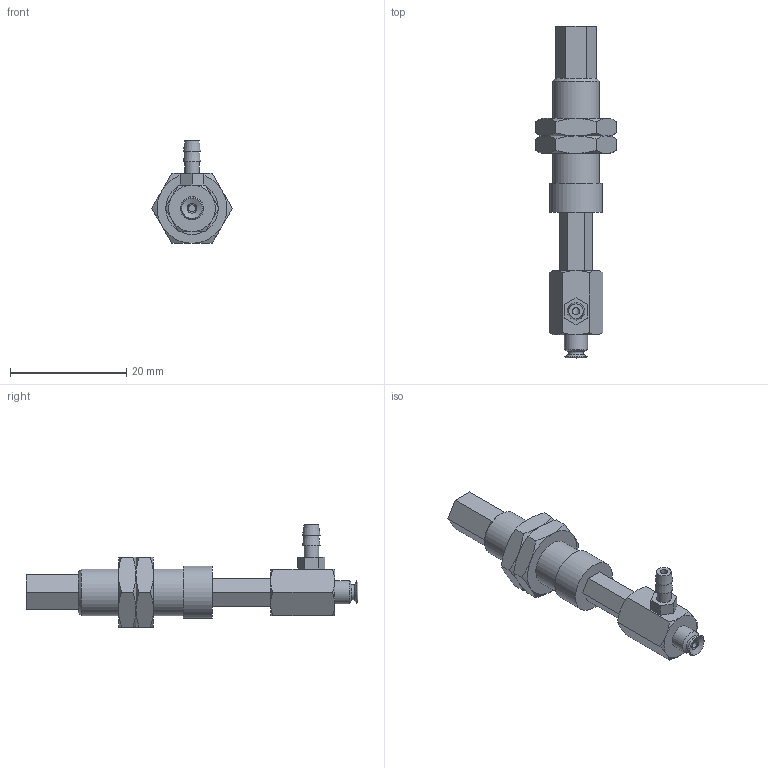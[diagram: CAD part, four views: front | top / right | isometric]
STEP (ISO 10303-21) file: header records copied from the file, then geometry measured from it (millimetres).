
FILE_DESCRIPTION(('STEP AP203'),'1');
FILE_NAME('-T.stp','2025-04-10T02:28:40',(' '),(' '),'Spatial InterOp 3D',' ',' ');
FILE_SCHEMA(('CONFIG_CONTROL_DESIGN'));
Length unit declared in the file: millimetre
Products named in the file (7): BNABPFYH-3.5A-10-※-T; CONNECTOR-H-3.5A-10; Nut-3.5A-10-h; NAPFTH-3.5A-10-FBODY; NAPFTH-3.5A-10-MBODY; BPFG-3.5A-※; T (2)
Assembly tree (7 placements, depth 2):
  BNABPFYH-3.5A-10-※-T
    CONNECTOR-H-3.5A-10
    Nut-3.5A-10-h  x2
    NAPFTH-3.5A-10-FBODY
    NAPFTH-3.5A-10-MBODY
    BPFG-3.5A-※
    T (2)
Bounding box: 13.86 x 57 x 17.6 mm (x, y, z)
Volume: 2825.7 mm3; surface area: 3475.8 mm2
Topology: 7 solids, 7 shells, 155 faces, 333 edges, 204 vertices
Faces by surface type: plane 76, cone 54, cylinder 17, torus 7, bspline 1
Full cylindrical faces by diameter (mm): 1.2 x3, 2 x2, 2.459 x2, 2.5 x1, 3 x4, 4 x1, 7.188 x2, 8 x1, 9 x1
Entity records: 3925 total; most frequent: CARTESIAN_POINT 919, DIRECTION 546, ORIENTED_EDGE 480, EDGE_CURVE 240, AXIS2_PLACEMENT_3D 221, EDGE_LOOP 194, VERTEX_POINT 170, FACE_OUTER_BOUND 156
